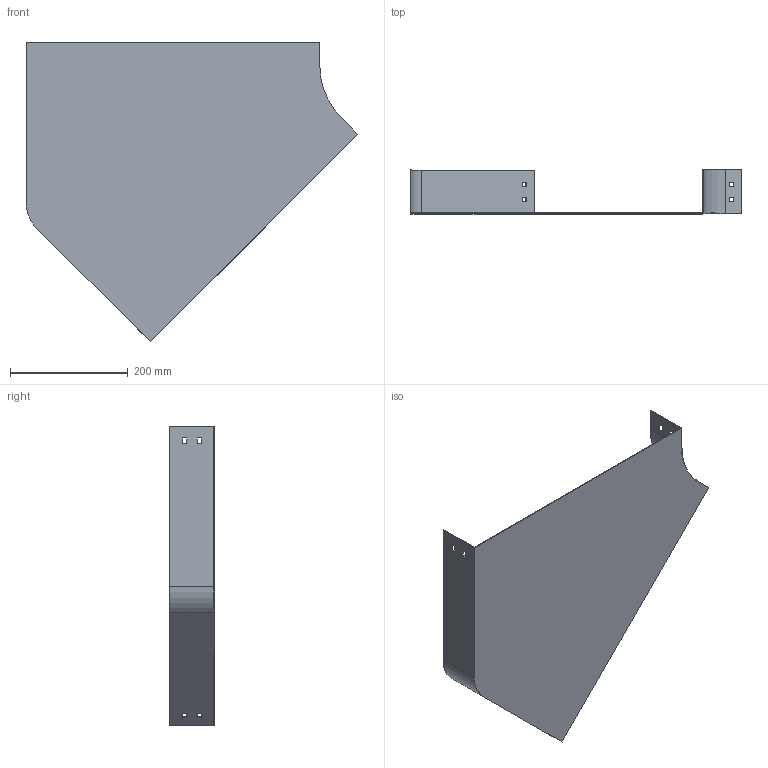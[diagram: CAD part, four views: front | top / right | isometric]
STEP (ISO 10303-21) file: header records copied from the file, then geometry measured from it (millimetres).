
FILE_DESCRIPTION (( 'STEP AP214' ), '1' );
FILE_NAME ('P4_507.step', '2025-07-16T09:19:48', ( '' ), ( '' ), 'SwSTEP 2.0', 'SolidWorks 2023', '' );
FILE_SCHEMA (( 'AUTOMOTIVE_DESIGN' ));
Length unit declared in the file: millimetre
Products named in the file (1): P4_507
Bounding box: 564.9 x 75 x 510.23 mm (x, y, z)
Volume: 377784.4 mm3; surface area: 507221.4 mm2
Topology: 1 solids, 1 shells, 50 faces, 144 edges, 96 vertices
Faces by surface type: plane 46, cylinder 4
Entity records: 1671 total; most frequent: CARTESIAN_POINT 291, ORIENTED_EDGE 288, DIRECTION 254, EDGE_CURVE 144, LINE 136, VECTOR 136, VERTEX_POINT 96, EDGE_LOOP 66
